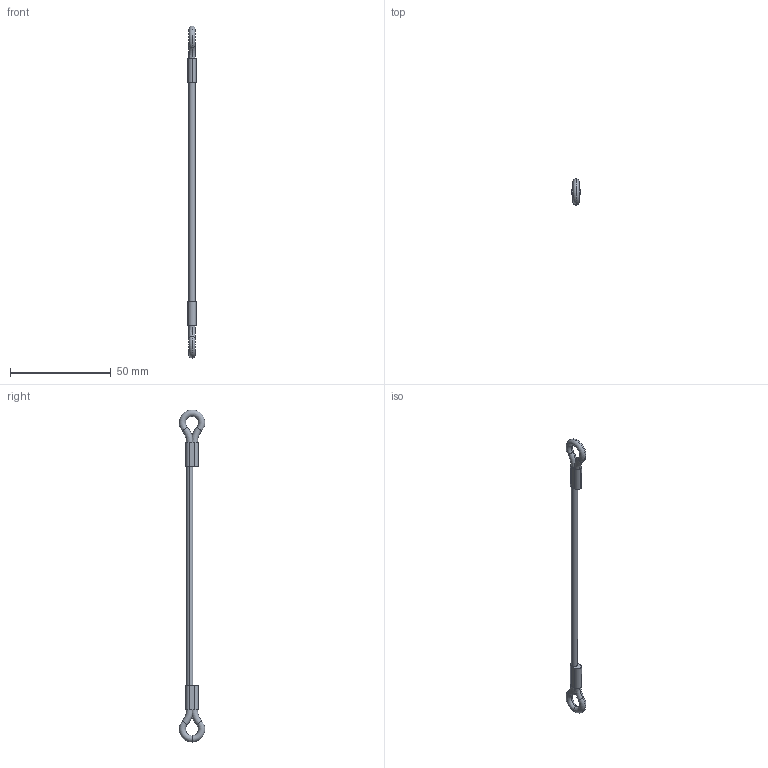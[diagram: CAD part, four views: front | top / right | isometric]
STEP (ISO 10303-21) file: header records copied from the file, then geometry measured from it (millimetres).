
FILE_DESCRIPTION (( 'STEP AP203' ), '1' );
FILE_NAME ('LA1065.I06-152B1.step', '2026-03-23T15:43:04', ( '' ), ( '' ), 'SwSTEP 2.0', 'SolidWorks 2019', '' );
FILE_SCHEMA (( 'CONFIG_CONTROL_DESIGN' ));
Length unit declared in the file: millimetre
Products named in the file (1): LA1065.I06-152B1
Bounding box: 3.99 x 12.77 x 165.16 mm (x, y, z)
Volume: 1952.5 mm3; surface area: 2238.5 mm2
Topology: 1 solids, 1 shells, 30 faces, 72 edges, 44 vertices
Faces by surface type: torus 14, cylinder 8, plane 8
Entity records: 1025 total; most frequent: CARTESIAN_POINT 207, DIRECTION 178, ORIENTED_EDGE 144, AXIS2_PLACEMENT_3D 79, EDGE_CURVE 72, CIRCLE 48, VERTEX_POINT 44, EDGE_LOOP 34
